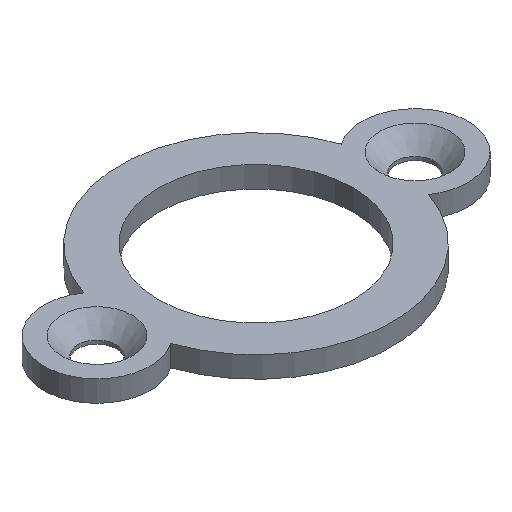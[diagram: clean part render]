
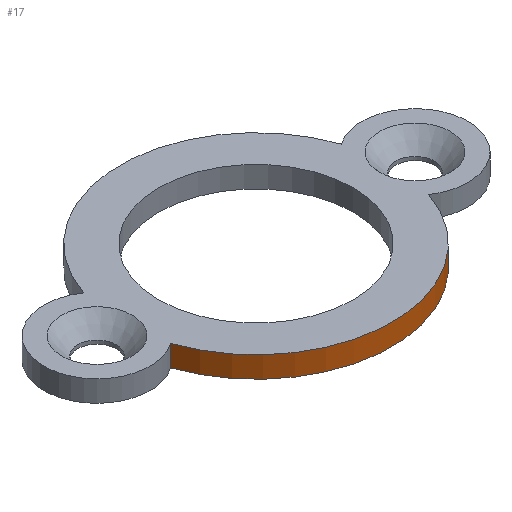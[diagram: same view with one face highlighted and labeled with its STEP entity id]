
A CAD part, isometric view. The second image highlights one B-rep face of the part: STEP entity #17.
In plain terms, the highlighted cylindrical face has radius 7.7 mm (diameter 15.4 mm), a partial arc.
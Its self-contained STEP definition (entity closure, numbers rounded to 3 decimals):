
#17 = ADVANCED_FACE('',(#18),#33,.T.);
#18 = FACE_BOUND('',#19,.F.);
#19 = EDGE_LOOP('',(#20,#56,#82,#115));
#20 = ORIENTED_EDGE('',*,*,#21,.F.);
#21 = EDGE_CURVE('',#22,#24,#26,.T.);
#22 = VERTEX_POINT('',#23);
#23 = CARTESIAN_POINT('',(34.706,194.032,12.3));
#24 = VERTEX_POINT('',#25);
#25 = CARTESIAN_POINT('',(49.294,194.032,12.3));
#26 = SURFACE_CURVE('',#27,(#32,#44),.PCURVE_S1.);
#27 = CIRCLE('',#28,7.7);
#28 = AXIS2_PLACEMENT_3D('',#29,#30,#31);
#29 = CARTESIAN_POINT('',(42.,196.5,12.3));
#30 = DIRECTION('',(0.,0.,1.));
#31 = DIRECTION('',(-0.947,-0.32,0.));
#32 = PCURVE('',#33,#38);
#33 = CYLINDRICAL_SURFACE('',#34,7.7);
#34 = AXIS2_PLACEMENT_3D('',#35,#36,#37);
#35 = CARTESIAN_POINT('',(42.,196.5,12.3));
#36 = DIRECTION('',(-0.,-0.,-1.));
#37 = DIRECTION('',(1.,0.,0.));
#38 = DEFINITIONAL_REPRESENTATION('',(#39),#43);
#39 = LINE('',#40,#41);
#40 = CARTESIAN_POINT('',(-3.468,0.));
#41 = VECTOR('',#42,1.);
#42 = DIRECTION('',(-1.,0.));
#43 = ( GEOMETRIC_REPRESENTATION_CONTEXT(2) 
PARAMETRIC_REPRESENTATION_CONTEXT() REPRESENTATION_CONTEXT('2D SPACE',''
  ) );
#44 = PCURVE('',#45,#50);
#45 = PLANE('',#46);
#46 = AXIS2_PLACEMENT_3D('',#47,#48,#49);
#47 = CARTESIAN_POINT('',(42.,196.5,12.3));
#48 = DIRECTION('',(0.,0.,1.));
#49 = DIRECTION('',(1.,0.,-0.));
#50 = DEFINITIONAL_REPRESENTATION('',(#51),#55);
#51 = CIRCLE('',#52,7.7);
#52 = AXIS2_PLACEMENT_2D('',#53,#54);
#53 = CARTESIAN_POINT('',(0.,0.));
#54 = DIRECTION('',(-0.947,-0.32));
#55 = ( GEOMETRIC_REPRESENTATION_CONTEXT(2) 
PARAMETRIC_REPRESENTATION_CONTEXT() REPRESENTATION_CONTEXT('2D SPACE',''
  ) );
#56 = ORIENTED_EDGE('',*,*,#57,.F.);
#57 = EDGE_CURVE('',#58,#22,#60,.T.);
#58 = VERTEX_POINT('',#59);
#59 = CARTESIAN_POINT('',(34.706,194.032,13.5));
#60 = SURFACE_CURVE('',#61,(#65,#71),.PCURVE_S1.);
#61 = LINE('',#62,#63);
#62 = CARTESIAN_POINT('',(34.706,194.032,12.3));
#63 = VECTOR('',#64,1.);
#64 = DIRECTION('',(-0.,-0.,-1.));
#65 = PCURVE('',#33,#66);
#66 = DEFINITIONAL_REPRESENTATION('',(#67),#70);
#67 = B_SPLINE_CURVE_WITH_KNOTS('',1,(#68,#69),.UNSPECIFIED.,.F.,.F.,(2,
    2),(-1.2,-0.),.PIECEWISE_BEZIER_KNOTS.);
#68 = CARTESIAN_POINT('',(-3.468,-1.2));
#69 = CARTESIAN_POINT('',(-3.468,0.));
#70 = ( GEOMETRIC_REPRESENTATION_CONTEXT(2) 
PARAMETRIC_REPRESENTATION_CONTEXT() REPRESENTATION_CONTEXT('2D SPACE',''
  ) );
#71 = PCURVE('',#72,#77);
#72 = CYLINDRICAL_SURFACE('',#73,3.);
#73 = AXIS2_PLACEMENT_3D('',#74,#75,#76);
#74 = CARTESIAN_POINT('',(33.,196.5,12.3));
#75 = DIRECTION('',(-0.,-0.,-1.));
#76 = DIRECTION('',(1.,0.,0.));
#77 = DEFINITIONAL_REPRESENTATION('',(#78),#81);
#78 = B_SPLINE_CURVE_WITH_KNOTS('',1,(#79,#80),.UNSPECIFIED.,.F.,.F.,(2,
    2),(-1.2,0.),.PIECEWISE_BEZIER_KNOTS.);
#79 = CARTESIAN_POINT('',(-5.317,-1.2));
#80 = CARTESIAN_POINT('',(-5.317,0.));
#81 = ( GEOMETRIC_REPRESENTATION_CONTEXT(2) 
PARAMETRIC_REPRESENTATION_CONTEXT() REPRESENTATION_CONTEXT('2D SPACE',''
  ) );
#82 = ORIENTED_EDGE('',*,*,#83,.F.);
#83 = EDGE_CURVE('',#84,#58,#86,.T.);
#84 = VERTEX_POINT('',#85);
#85 = CARTESIAN_POINT('',(49.294,194.032,13.5));
#86 = SURFACE_CURVE('',#87,(#92,#99),.PCURVE_S1.);
#87 = CIRCLE('',#88,7.7);
#88 = AXIS2_PLACEMENT_3D('',#89,#90,#91);
#89 = CARTESIAN_POINT('',(42.,196.5,13.5));
#90 = DIRECTION('',(0.,0.,-1.));
#91 = DIRECTION('',(-0.947,0.32,0.));
#92 = PCURVE('',#33,#93);
#93 = DEFINITIONAL_REPRESENTATION('',(#94),#98);
#94 = LINE('',#95,#96);
#95 = CARTESIAN_POINT('',(-9.099,-1.2));
#96 = VECTOR('',#97,1.);
#97 = DIRECTION('',(1.,-0.));
#98 = ( GEOMETRIC_REPRESENTATION_CONTEXT(2) 
PARAMETRIC_REPRESENTATION_CONTEXT() REPRESENTATION_CONTEXT('2D SPACE',''
  ) );
#99 = PCURVE('',#100,#105);
#100 = PLANE('',#101);
#101 = AXIS2_PLACEMENT_3D('',#102,#103,#104);
#102 = CARTESIAN_POINT('',(42.,196.5,13.5));
#103 = DIRECTION('',(0.,0.,1.));
#104 = DIRECTION('',(1.,0.,-0.));
#105 = DEFINITIONAL_REPRESENTATION('',(#106),#114);
#106 = ( BOUNDED_CURVE() B_SPLINE_CURVE(2,(#107,#108,#109,#110,#111,#112
,#113),.UNSPECIFIED.,.T.,.F.) B_SPLINE_CURVE_WITH_KNOTS((1,2,2,2,2,1),(
    -2.094,0.,2.094,4.189,6.283,
8.378),.UNSPECIFIED.) CURVE() GEOMETRIC_REPRESENTATION_ITEM() 
RATIONAL_B_SPLINE_CURVE((1.,0.5,1.,0.5,1.,0.5,1.)) REPRESENTATION_ITEM(
  '') );
#107 = CARTESIAN_POINT('',(-7.294,2.468));
#108 = CARTESIAN_POINT('',(-3.02,15.101));
#109 = CARTESIAN_POINT('',(5.784,5.083));
#110 = CARTESIAN_POINT('',(14.588,-4.935));
#111 = CARTESIAN_POINT('',(1.51,-7.551));
#112 = CARTESIAN_POINT('',(-11.568,-10.166));
#113 = CARTESIAN_POINT('',(-7.294,2.468));
#114 = ( GEOMETRIC_REPRESENTATION_CONTEXT(2) 
PARAMETRIC_REPRESENTATION_CONTEXT() REPRESENTATION_CONTEXT('2D SPACE',''
  ) );
#115 = ORIENTED_EDGE('',*,*,#116,.T.);
#116 = EDGE_CURVE('',#84,#24,#117,.T.);
#117 = SURFACE_CURVE('',#118,(#122,#128),.PCURVE_S1.);
#118 = LINE('',#119,#120);
#119 = CARTESIAN_POINT('',(49.294,194.032,12.3));
#120 = VECTOR('',#121,1.);
#121 = DIRECTION('',(-0.,-0.,-1.));
#122 = PCURVE('',#33,#123);
#123 = DEFINITIONAL_REPRESENTATION('',(#124),#127);
#124 = B_SPLINE_CURVE_WITH_KNOTS('',1,(#125,#126),.UNSPECIFIED.,.F.,.F.,
  (2,2),(-1.2,0.),.PIECEWISE_BEZIER_KNOTS.);
#125 = CARTESIAN_POINT('',(-5.957,-1.2));
#126 = CARTESIAN_POINT('',(-5.957,0.));
#127 = ( GEOMETRIC_REPRESENTATION_CONTEXT(2) 
PARAMETRIC_REPRESENTATION_CONTEXT() REPRESENTATION_CONTEXT('2D SPACE',''
  ) );
#128 = PCURVE('',#129,#134);
#129 = CYLINDRICAL_SURFACE('',#130,3.);
#130 = AXIS2_PLACEMENT_3D('',#131,#132,#133);
#131 = CARTESIAN_POINT('',(51.,196.5,12.3));
#132 = DIRECTION('',(-0.,-0.,-1.));
#133 = DIRECTION('',(1.,0.,0.));
#134 = DEFINITIONAL_REPRESENTATION('',(#135),#138);
#135 = B_SPLINE_CURVE_WITH_KNOTS('',1,(#136,#137),.UNSPECIFIED.,.F.,.F.,
  (2,2),(-1.2,0.),.PIECEWISE_BEZIER_KNOTS.);
#136 = CARTESIAN_POINT('',(-4.107,-1.2));
#137 = CARTESIAN_POINT('',(-4.107,0.));
#138 = ( GEOMETRIC_REPRESENTATION_CONTEXT(2) 
PARAMETRIC_REPRESENTATION_CONTEXT() REPRESENTATION_CONTEXT('2D SPACE',''
  ) );
